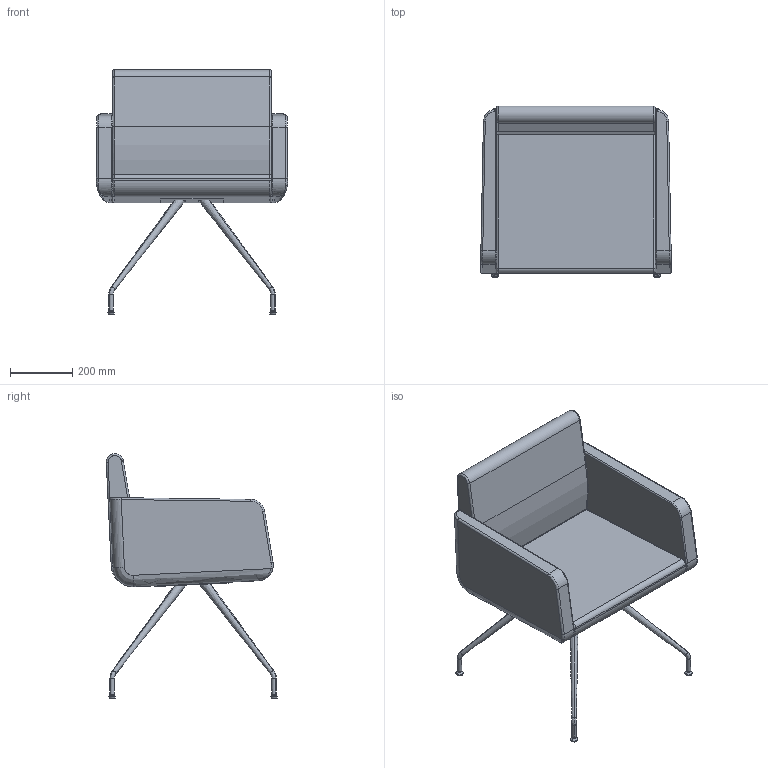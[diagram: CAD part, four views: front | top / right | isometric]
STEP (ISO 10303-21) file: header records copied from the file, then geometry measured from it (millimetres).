
FILE_DESCRIPTION(/* description */ (''),/* implementation_level */ '2;1');
FILE_NAME(/* name */ 'DELTAB~1',/* time_stamp */ '2016-06-16T16:03:55+02:00',/* author */ (''),/* organization */ (''),/* preprocessor_version */ 'ST-DEVELOPER v15',/* originating_system */ '',/* authorisation */ '');
FILE_SCHEMA (('CONFIG_CONTROL_DESIGN'));
Length unit declared in the file: millimetre
Products named in the file (1): Document
Bounding box: 613.67 x 551.01 x 785.18 mm (x, y, z)
Volume: 42986864.6 mm3; surface area: 1922211.6 mm2
Topology: 4 solids, 12 shells, 159 faces, 346 edges, 204 vertices
Faces by surface type: bspline 139, plane 20
Entity records: 5622 total; most frequent: CARTESIAN_POINT 3704, ORIENTED_EDGE 658, EDGE_CURVE 341, VERTEX_POINT 198, EDGE_LOOP 163, ADVANCED_FACE 159, FACE_OUTER_BOUND 159, B_SPLINE_CURVE_WITH_KNOTS 43
